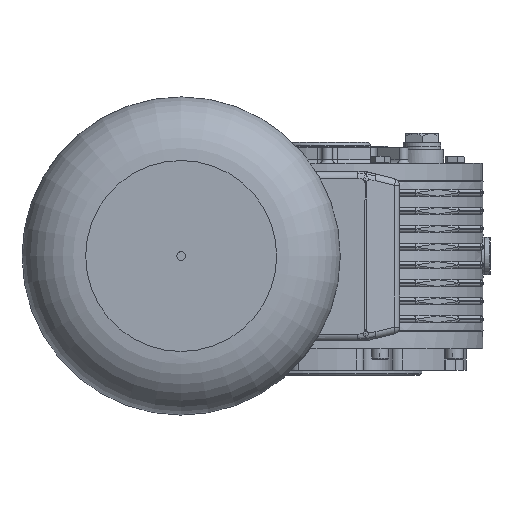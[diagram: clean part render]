
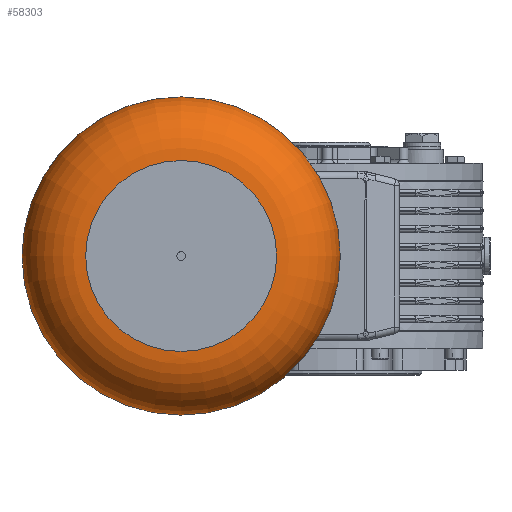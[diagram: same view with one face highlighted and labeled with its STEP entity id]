
A CAD part, left-side view. The second image highlights one B-rep face of the part: STEP entity #58303.
In plain terms, the highlighted toroidal (fillet/blend) face has major radius 55.5 mm and minor radius 37 mm.
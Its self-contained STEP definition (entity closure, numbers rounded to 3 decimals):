
#58276=CARTESIAN_POINT('',(375.0,0.0,0.0));
#58277=DIRECTION('',(1.0,0.0,0.0));
#58278=DIRECTION('',(0.0,0.0,-1.0));
#58279=AXIS2_PLACEMENT_3D('',#58276,#58277,#58278);
#58280=TOROIDAL_SURFACE('',#58279,55.5,37.0);
#58281=CARTESIAN_POINT('',(412.0,55.5,0.0));
#58282=VERTEX_POINT('',#58281);
#58283=CARTESIAN_POINT('',(412.0,0.0,0.0));
#58284=DIRECTION('',(1.0,0.0,0.0));
#58285=DIRECTION('',(0.0,1.0,0.0));
#58286=AXIS2_PLACEMENT_3D('',#58283,#58284,#58285);
#58287=CIRCLE('',#58286,55.5);
#58288=EDGE_CURVE('',#58282,#58282,#58287,.T.);
#58289=ORIENTED_EDGE('',*,*,#58288,.F.);
#58290=EDGE_LOOP('',(#58289));
#58291=FACE_OUTER_BOUND('',#58290,.T.);
#58292=CARTESIAN_POINT('',(375.0,92.5,0.0));
#58293=VERTEX_POINT('',#58292);
#58294=CARTESIAN_POINT('',(375.0,0.0,0.0));
#58295=DIRECTION('',(1.0,0.0,0.0));
#58296=DIRECTION('',(0.0,1.0,0.0));
#58297=AXIS2_PLACEMENT_3D('',#58294,#58295,#58296);
#58298=CIRCLE('',#58297,92.5);
#58299=EDGE_CURVE('',#58293,#58293,#58298,.T.);
#58300=ORIENTED_EDGE('',*,*,#58299,.T.);
#58301=EDGE_LOOP('',(#58300));
#58302=FACE_BOUND('',#58301,.T.);
#58303=ADVANCED_FACE('',(#58291,#58302),#58280,.T.);
